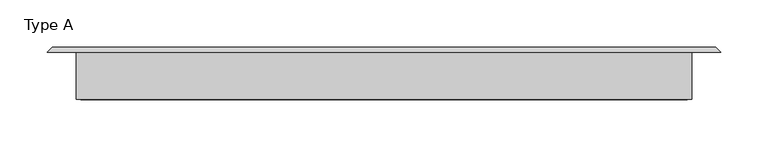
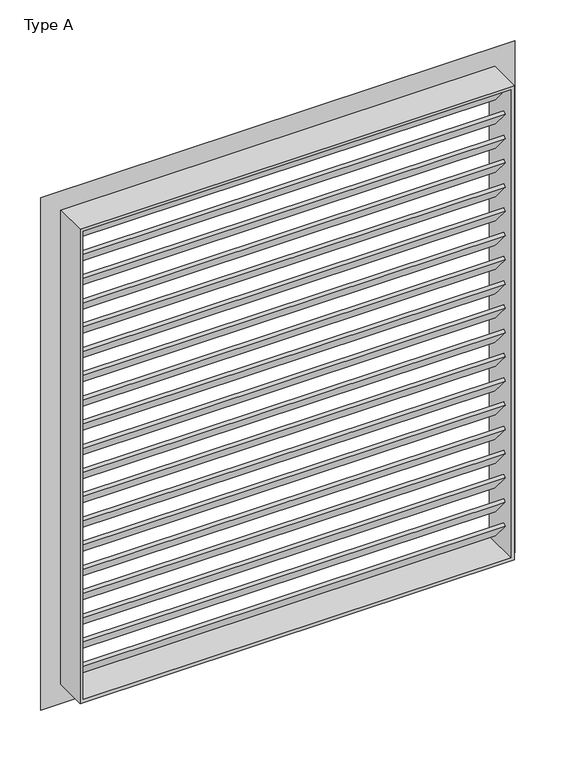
"""IFC4 building model written with IfcOpenShell, lengths in millimetres: proxy geometry, Grille d'aération - Mur : Type A."""

from ifc_helpers import new_model, si_unit, frame, origin, place, context, project, spatial, polyline, outline, extrude, faceted_brep, source, transform, mapped, element, save


def type_a_3dd241b2(model_context):
    return source(origin(), model_context, "Body", "SolidModel", [
        extrude(outline(polyline([(0.0, -5.0), (0.0, 0.0), (640.0, 0.0), (640.0, -5.0), (0.0, -5.0)])), frame((445.0, 90.0, 2053.3333333), z_axis=(0.0, -0.6427876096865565, 0.7660444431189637), x_axis=(-1.0, 0.0, 0.0)), (0.0, 0.0, 1.0), 40.0),
        extrude(outline(polyline([(0.0, -5.0), (0.0, 0.0), (640.0, 0.0), (640.0, -5.0), (0.0, -5.0)])), frame((445.0, 90.0, 2091.6666667), z_axis=(0.0, -0.6427876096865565, 0.7660444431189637), x_axis=(-1.0, 0.0, 0.0)), (0.0, 0.0, 1.0), 40.0),
        extrude(outline(polyline([(0.0, -5.0), (0.0, 0.0), (640.0, 0.0), (640.0, -5.0), (0.0, -5.0)])), frame((445.0, 90.0, 2130.0), z_axis=(0.0, -0.6427876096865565, 0.7660444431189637), x_axis=(-1.0, 0.0, 0.0)), (0.0, 0.0, 1.0), 40.0),
        extrude(outline(polyline([(0.0, -5.0), (0.0, 0.0), (640.0, 0.0), (640.0, -5.0), (0.0, -5.0)])), frame((445.0, 90.0, 2168.3333333), z_axis=(0.0, -0.6427876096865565, 0.7660444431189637), x_axis=(-1.0, 0.0, 0.0)), (0.0, 0.0, 1.0), 40.0),
        extrude(outline(polyline([(0.0, -5.0), (0.0, 0.0), (640.0, 0.0), (640.0, -5.0), (0.0, -5.0)])), frame((445.0, 90.0, 2206.6666667), z_axis=(0.0, -0.6427876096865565, 0.7660444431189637), x_axis=(-1.0, 0.0, 0.0)), (0.0, 0.0, 1.0), 40.0),
        extrude(outline(polyline([(0.0, -5.0), (0.0, 0.0), (640.0, 0.0), (640.0, -5.0), (0.0, -5.0)])), frame((445.0, 90.0, 2245.0), z_axis=(0.0, -0.6427876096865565, 0.7660444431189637), x_axis=(-1.0, 0.0, 0.0)), (0.0, 0.0, 1.0), 40.0),
        extrude(outline(polyline([(0.0, -5.0), (0.0, 0.0), (640.0, 0.0), (640.0, -5.0), (0.0, -5.0)])), frame((445.0, 90.0, 2283.3333333), z_axis=(0.0, -0.6427876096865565, 0.7660444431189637), x_axis=(-1.0, 0.0, 0.0)), (0.0, 0.0, 1.0), 40.0),
        extrude(outline(polyline([(0.0, -5.0), (0.0, 0.0), (640.0, 0.0), (640.0, -5.0), (0.0, -5.0)])), frame((445.0, 90.0, 2321.6666667), z_axis=(0.0, -0.6427876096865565, 0.7660444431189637), x_axis=(-1.0, 0.0, 0.0)), (0.0, 0.0, 1.0), 40.0),
        extrude(outline(polyline([(0.0, -5.0), (0.0, 0.0), (640.0, 0.0), (640.0, -5.0), (0.0, -5.0)])), frame((445.0, 90.0, 2360.0), z_axis=(0.0, -0.6427876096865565, 0.7660444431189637), x_axis=(-1.0, 0.0, 0.0)), (0.0, 0.0, 1.0), 40.0),
        extrude(outline(polyline([(0.0, -5.0), (0.0, 0.0), (640.0, 0.0), (640.0, -5.0), (0.0, -5.0)])), frame((445.0, 90.0, 2398.3333333), z_axis=(0.0, -0.6427876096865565, 0.7660444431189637), x_axis=(-1.0, 0.0, 0.0)), (0.0, 0.0, 1.0), 40.0),
        extrude(outline(polyline([(0.0, -5.0), (0.0, 0.0), (640.0, 0.0), (640.0, -5.0), (0.0, -5.0)])), frame((445.0, 90.0, 2436.6666667), z_axis=(0.0, -0.6427876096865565, 0.7660444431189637), x_axis=(-1.0, 0.0, 0.0)), (0.0, 0.0, 1.0), 40.0),
        extrude(outline(polyline([(0.0, -5.0), (0.0, 0.0), (640.0, 0.0), (640.0, -5.0), (0.0, -5.0)])), frame((445.0, 90.0, 2475.0), z_axis=(0.0, -0.6427876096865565, 0.7660444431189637), x_axis=(-1.0, 0.0, 0.0)), (0.0, 0.0, 1.0), 40.0),
        extrude(outline(polyline([(0.0, -5.0), (0.0, 0.0), (640.0, 0.0), (640.0, -5.0), (0.0, -5.0)])), frame((445.0, 90.0, 2513.3333333), z_axis=(0.0, -0.6427876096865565, 0.7660444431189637), x_axis=(-1.0, 0.0, 0.0)), (0.0, 0.0, 1.0), 40.0),
        extrude(outline(polyline([(0.0, -5.0), (0.0, 0.0), (640.0, 0.0), (640.0, -5.0), (0.0, -5.0)])), frame((445.0, 90.0, 2551.6666667), z_axis=(0.0, -0.6427876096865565, 0.7660444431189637), x_axis=(-1.0, 0.0, 0.0)), (0.0, 0.0, 1.0), 40.0),
        extrude(outline(polyline([(0.0, -5.0), (0.0, 0.0), (640.0, 0.0), (640.0, -5.0), (0.0, -5.0)])), frame((445.0, 90.0, 2590.0), z_axis=(0.0, -0.6427876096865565, 0.7660444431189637), x_axis=(-1.0, 0.0, 0.0)), (0.0, 0.0, 1.0), 40.0),
        extrude(outline(polyline([(0.0, -5.0), (0.0, 0.0), (640.0, 0.0), (640.0, -5.0), (0.0, -5.0)])), frame((445.0, 90.0, 2628.3333333), z_axis=(0.0, -0.6427876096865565, 0.7660444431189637), x_axis=(-1.0, 0.0, 0.0)), (0.0, 0.0, 1.0), 40.0),
        extrude(outline(polyline([(0.0, -5.0), (0.0, 0.0), (640.0, 0.0), (640.0, -5.0), (0.0, -5.0)])), frame((445.0, 90.0, 2666.6666667), z_axis=(0.0, -0.6427876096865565, 0.7660444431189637), x_axis=(-1.0, 0.0, 0.0)), (0.0, 0.0, 1.0), 40.0),
        extrude(outline(polyline([(0.0, -5.0), (0.0, 0.0), (640.0, 0.0), (640.0, -5.0), (0.0, -5.0)])), frame((445.0, 90.0, 2015.0), z_axis=(0.0, -0.6427876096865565, 0.7660444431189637), x_axis=(-1.0, 0.0, 0.0)), (0.0, 0.0, 1.0), 40.0),
        extrude(outline(polyline([(0.0, -5.0), (0.0, 0.0), (640.0, 0.0), (640.0, -5.0), (0.0, -5.0)])), frame((445.0, 90.0, 2705.0), z_axis=(0.0, -0.6427876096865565, 0.7660444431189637), x_axis=(-1.0, 0.0, 0.0)), (0.0, 0.0, 1.0), 40.0),
        faceted_brep([(-200.0, 50.0, 2750.0), (-200.0, 100.0, 2750.0), (-200.0, 100.0, 2000.0), (-200.0, 50.0, 2000.0), (-195.0, 105.0, 2745.0), (-195.0, 50.0, 2745.0), (-195.0, 50.0, 2005.0), (-195.0, 105.0, 2005.0), (-230.284753, 100.0, 2780.284753), (-225.284753, 105.0, 2775.284753), (-225.284753, 105.0, 1974.715247), (-230.284753, 100.0, 1969.715247), (450.0, 100.0, 2000.0), (450.0, 50.0, 2000.0), (445.0, 50.0, 2005.0), (445.0, 105.0, 2005.0), (475.284753, 105.0, 1974.715247), (480.284753, 100.0, 1969.715247), (450.0, 100.0, 2750.0), (450.0, 50.0, 2750.0), (445.0, 50.0, 2745.0), (445.0, 105.0, 2745.0), (475.284753, 105.0, 2775.284753), (480.284753, 100.0, 2780.284753)], [[[0, 1, 2, 3]], [[4, 5, 6, 7]], [[8, 9, 10, 11]], [[3, 2, 12, 13]], [[7, 6, 14, 15]], [[11, 10, 16, 17]], [[13, 12, 18, 19]], [[15, 14, 20, 21]], [[17, 16, 22, 23]], [[19, 18, 1, 0]], [[3, 13, 19, 0], [5, 20, 14, 6]], [[21, 20, 5, 4]], [[9, 22, 16, 10], [7, 15, 21, 4]], [[23, 22, 9, 8]], [[11, 17, 23, 8], [1, 18, 12, 2]]]),
    ])


if __name__ == "__main__":
    model = new_model("IFC4")
    model_context = context("Model", 3, world=origin())
    ifc_project = project(units=[si_unit("LENGTHUNIT", "METRE", prefix="MILLI")], contexts=[model_context])
    site = spatial("IfcSite", under=ifc_project)
    building = spatial("IfcBuilding", under=site)
    placement = place(None, origin())
    type_a_shape = type_a_3dd241b2(model_context)
    element("IfcBuildingElementProxy", 1, Name="Grille d'aération - Mur : Type A", ObjectType="Grille d'aération - Mur : Type A", at=placement, inside=building, context=model_context, shape_type="MappedRepresentation", body=[
        mapped(type_a_shape, transform((0.0, 0.0, 0.0), x_axis=(1.0, 0.0, 0.0), y_axis=(0.0, 1.0, 0.0), z_axis=(0.0, 0.0, 1.0))),
    ])
    save(model, "model.ifc")
